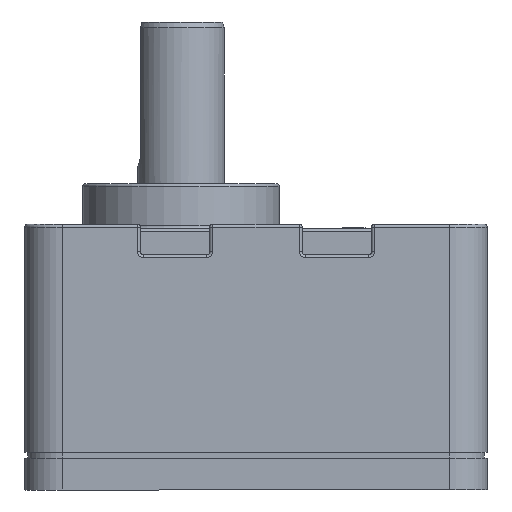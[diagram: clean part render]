
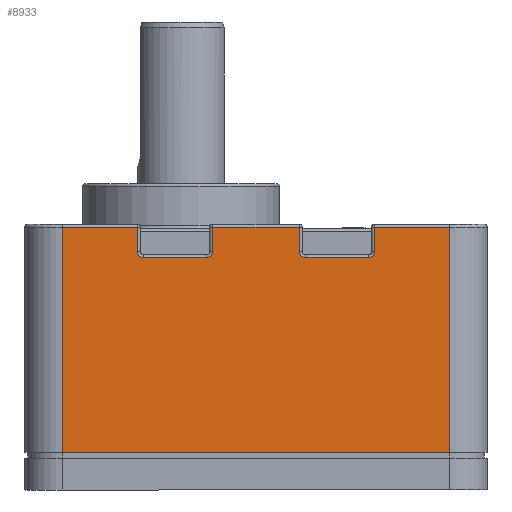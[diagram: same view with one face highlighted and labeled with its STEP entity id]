
A CAD part, left-side view. The second image highlights one B-rep face of the part: STEP entity #8933.
In plain terms, the highlighted planar face has unit normal (-1, 0, 0).
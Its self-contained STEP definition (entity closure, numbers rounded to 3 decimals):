
#8589=CARTESIAN_POINT('',(-80.0,6.5,28.18));
#8590=VERTEX_POINT('',#8589);
#8599=CARTESIAN_POINT('',(-80.,19.5,28.18));
#8600=VERTEX_POINT('',#8599);
#8608=CARTESIAN_POINT('',(-80.,19.5,28.18));
#8609=DIRECTION('',(0.0,-1.0,0.0));
#8610=VECTOR('',#8609,13.0);
#8611=LINE('',#8608,#8610);
#8612=EDGE_CURVE('',#8600,#8590,#8611,.T.);
#8803=CARTESIAN_POINT('',(-80.,80.,28.68));
#8804=DIRECTION('',(-1.0,0.0,0.0));
#8805=DIRECTION('',(0.0,0.0,-1.0));
#8806=AXIS2_PLACEMENT_3D('',#8803,#8804,#8805);
#8807=PLANE('',#8806);
#8808=ORIENTED_EDGE('',*,*,#8612,.F.);
#8809=CARTESIAN_POINT('',(-80.,19.5,23.88));
#8810=VERTEX_POINT('',#8809);
#8811=CARTESIAN_POINT('',(-80.,19.5,23.88));
#8812=DIRECTION('',(0.0,0.0,1.0));
#8813=VECTOR('',#8812,4.3);
#8814=LINE('',#8811,#8813);
#8815=EDGE_CURVE('',#8810,#8600,#8814,.T.);
#8816=ORIENTED_EDGE('',*,*,#8815,.F.);
#8817=CARTESIAN_POINT('',(-80.,20.5,22.88));
#8818=VERTEX_POINT('',#8817);
#8819=CARTESIAN_POINT('',(-80.,20.5,23.88));
#8820=DIRECTION('',(-1.,0.,0.));
#8821=DIRECTION('',(0.,-0.707,-0.707));
#8822=AXIS2_PLACEMENT_3D('',#8819,#8820,#8821);
#8823=CIRCLE('',#8822,1.);
#8824=EDGE_CURVE('',#8818,#8810,#8823,.T.);
#8825=ORIENTED_EDGE('',*,*,#8824,.F.);
#8826=CARTESIAN_POINT('',(-80.,31.5,22.88));
#8827=VERTEX_POINT('',#8826);
#8828=CARTESIAN_POINT('',(-80.,31.5,22.88));
#8829=DIRECTION('',(0.0,-1.0,0.0));
#8830=VECTOR('',#8829,11.);
#8831=LINE('',#8828,#8830);
#8832=EDGE_CURVE('',#8827,#8818,#8831,.T.);
#8833=ORIENTED_EDGE('',*,*,#8832,.F.);
#8834=CARTESIAN_POINT('',(-80.,32.5,23.88));
#8835=VERTEX_POINT('',#8834);
#8836=CARTESIAN_POINT('',(-80.,31.5,23.88));
#8837=DIRECTION('',(-1.,0.,0.));
#8838=DIRECTION('',(0.,0.707,-0.707));
#8839=AXIS2_PLACEMENT_3D('',#8836,#8837,#8838);
#8840=CIRCLE('',#8839,1.);
#8841=EDGE_CURVE('',#8835,#8827,#8840,.T.);
#8842=ORIENTED_EDGE('',*,*,#8841,.F.);
#8843=CARTESIAN_POINT('',(-80.0,32.5,28.18));
#8844=VERTEX_POINT('',#8843);
#8845=CARTESIAN_POINT('',(-80.0,32.5,28.18));
#8846=DIRECTION('',(0.0,0.0,-1.0));
#8847=VECTOR('',#8846,4.3);
#8848=LINE('',#8845,#8847);
#8849=EDGE_CURVE('',#8844,#8835,#8848,.T.);
#8850=ORIENTED_EDGE('',*,*,#8849,.F.);
#8851=CARTESIAN_POINT('',(-80.,47.5,28.18));
#8852=VERTEX_POINT('',#8851);
#8853=CARTESIAN_POINT('',(-80.,47.5,28.18));
#8854=DIRECTION('',(0.0,-1.0,0.0));
#8855=VECTOR('',#8854,15.0);
#8856=LINE('',#8853,#8855);
#8857=EDGE_CURVE('',#8852,#8844,#8856,.T.);
#8858=ORIENTED_EDGE('',*,*,#8857,.F.);
#8859=CARTESIAN_POINT('',(-80.,47.5,23.88));
#8860=VERTEX_POINT('',#8859);
#8861=CARTESIAN_POINT('',(-80.,47.5,23.88));
#8862=DIRECTION('',(0.0,0.0,1.0));
#8863=VECTOR('',#8862,4.3);
#8864=LINE('',#8861,#8863);
#8865=EDGE_CURVE('',#8860,#8852,#8864,.T.);
#8866=ORIENTED_EDGE('',*,*,#8865,.F.);
#8867=CARTESIAN_POINT('',(-80.,48.5,22.88));
#8868=VERTEX_POINT('',#8867);
#8869=CARTESIAN_POINT('',(-80.,48.5,23.88));
#8870=DIRECTION('',(-1.,0.,0.));
#8871=DIRECTION('',(0.,-0.707,-0.707));
#8872=AXIS2_PLACEMENT_3D('',#8869,#8870,#8871);
#8873=CIRCLE('',#8872,1.);
#8874=EDGE_CURVE('',#8868,#8860,#8873,.T.);
#8875=ORIENTED_EDGE('',*,*,#8874,.F.);
#8876=CARTESIAN_POINT('',(-80.,59.5,22.88));
#8877=VERTEX_POINT('',#8876);
#8878=CARTESIAN_POINT('',(-80.,59.5,22.88));
#8879=DIRECTION('',(0.0,-1.0,0.0));
#8880=VECTOR('',#8879,11.);
#8881=LINE('',#8878,#8880);
#8882=EDGE_CURVE('',#8877,#8868,#8881,.T.);
#8883=ORIENTED_EDGE('',*,*,#8882,.F.);
#8884=CARTESIAN_POINT('',(-80.,60.5,23.88));
#8885=VERTEX_POINT('',#8884);
#8886=CARTESIAN_POINT('',(-80.,59.5,23.88));
#8887=DIRECTION('',(-1.0,0.,0.));
#8888=DIRECTION('',(0.,0.707,-0.707));
#8889=AXIS2_PLACEMENT_3D('',#8886,#8887,#8888);
#8890=CIRCLE('',#8889,1.0);
#8891=EDGE_CURVE('',#8885,#8877,#8890,.T.);
#8892=ORIENTED_EDGE('',*,*,#8891,.F.);
#8893=CARTESIAN_POINT('',(-80.,60.5,28.18));
#8894=VERTEX_POINT('',#8893);
#8895=CARTESIAN_POINT('',(-80.,60.5,28.18));
#8896=DIRECTION('',(0.0,0.0,-1.0));
#8897=VECTOR('',#8896,4.3);
#8898=LINE('',#8895,#8897);
#8899=EDGE_CURVE('',#8894,#8885,#8898,.T.);
#8900=ORIENTED_EDGE('',*,*,#8899,.F.);
#8901=CARTESIAN_POINT('',(-80.,73.5,28.18));
#8902=VERTEX_POINT('',#8901);
#8903=CARTESIAN_POINT('',(-80.,73.5,28.18));
#8904=DIRECTION('',(0.0,-1.0,0.0));
#8905=VECTOR('',#8904,13.);
#8906=LINE('',#8903,#8905);
#8907=EDGE_CURVE('',#8902,#8894,#8906,.T.);
#8908=ORIENTED_EDGE('',*,*,#8907,.F.);
#8909=CARTESIAN_POINT('',(-80.,73.5,-10.82));
#8910=VERTEX_POINT('',#8909);
#8911=CARTESIAN_POINT('',(-80.,73.5,-10.82));
#8912=DIRECTION('',(0.0,0.0,1.0));
#8913=VECTOR('',#8912,39.);
#8914=LINE('',#8911,#8913);
#8915=EDGE_CURVE('',#8910,#8902,#8914,.T.);
#8916=ORIENTED_EDGE('',*,*,#8915,.F.);
#8917=CARTESIAN_POINT('',(-80.,6.5,-10.82));
#8918=VERTEX_POINT('',#8917);
#8919=CARTESIAN_POINT('',(-80.,73.5,-10.82));
#8920=DIRECTION('',(0.0,-1.0,0.0));
#8921=VECTOR('',#8920,67.);
#8922=LINE('',#8919,#8921);
#8923=EDGE_CURVE('',#8910,#8918,#8922,.T.);
#8924=ORIENTED_EDGE('',*,*,#8923,.T.);
#8925=CARTESIAN_POINT('',(-80.0,6.5,28.18));
#8926=DIRECTION('',(0.0,0.0,-1.0));
#8927=VECTOR('',#8926,39.);
#8928=LINE('',#8925,#8927);
#8929=EDGE_CURVE('',#8590,#8918,#8928,.T.);
#8930=ORIENTED_EDGE('',*,*,#8929,.F.);
#8931=EDGE_LOOP('',(#8808,#8816,#8825,#8833,#8842,#8850,#8858,#8866,#8875,#8883,#8892,#8900,#8908,#8916,#8924,#8930));
#8932=FACE_OUTER_BOUND('',#8931,.T.);
#8933=ADVANCED_FACE('',(#8932),#8807,.T.);
